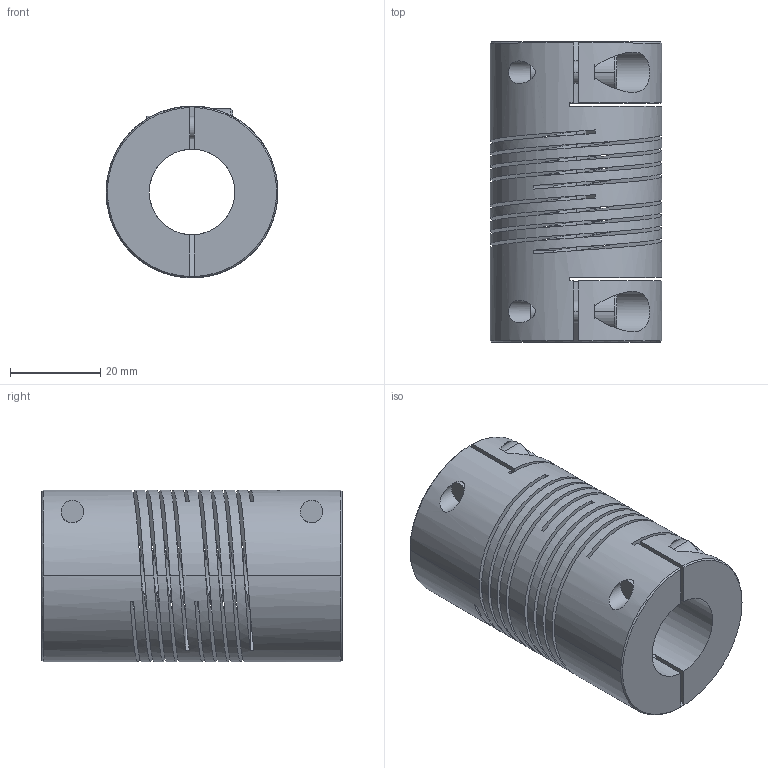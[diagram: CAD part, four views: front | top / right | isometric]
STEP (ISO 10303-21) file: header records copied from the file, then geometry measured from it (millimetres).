
FILE_DESCRIPTION((''),'2;1');
FILE_NAME('727_38','2006-12-05T',('Gary Melling'),(''),'PRO/ENGINEER BY PARAMETRIC TECHNOLOGY CORPORATION, 2006240','PRO/ENGINEER BY PARAMETRIC TECHNOLOGY CORPORATION, 2006240','');
FILE_SCHEMA(('CONFIG_CONTROL_DESIGN'));
Length unit declared in the file: millimetre
Products named in the file (1): 727_38
Bounding box: 38.1 x 66.7 x 38.1 mm (x, y, z)
Volume: 48753.4 mm3; surface area: 30029.6 mm2
Topology: 1 solids, 1 shells, 120 faces, 354 edges, 232 vertices
Faces by surface type: plane 56, cylinder 46, bspline 12, cone 6
Entity records: 6322 total; most frequent: CARTESIAN_POINT 3234, ORIENTED_EDGE 708, DIRECTION 528, EDGE_CURVE 354, VERTEX_POINT 232, VECTOR 188, LINE 188, AXIS2_PLACEMENT_3D 170
